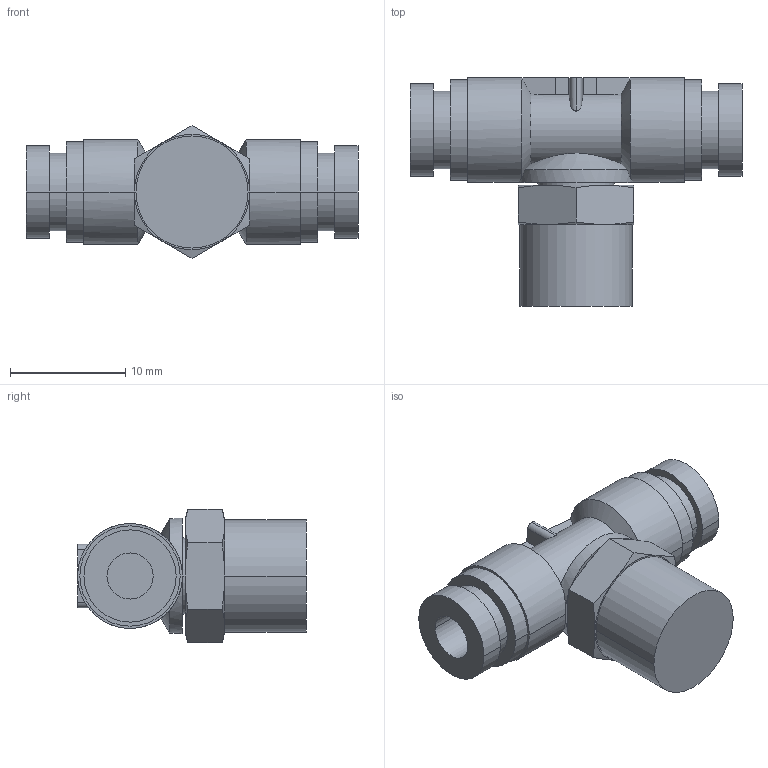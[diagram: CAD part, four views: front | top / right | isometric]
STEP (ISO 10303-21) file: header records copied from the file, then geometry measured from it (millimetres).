
FILE_DESCRIPTION( ( '' ), '1' );
FILE_NAME( 'G:/SMC狟婥/KQ2T04-01AS.stp', '2023-03-07T03:10:55', ( '' ), ( '' ), ' ', ' ', ' ' );
FILE_SCHEMA( ( 'CONFIG_CONTROL_DESIGN' ) );
Length unit declared in the file: millimetre
Products named in the file (1): 1
Bounding box: 28.8 x 19.85 x 11.55 mm (x, y, z)
Volume: 2087.4 mm3; surface area: 1830 mm2
Topology: 1 solids, 1 shells, 87 faces, 202 edges, 128 vertices
Faces by surface type: cylinder 36, plane 33, cone 18
Entity records: 2691 total; most frequent: CARTESIAN_POINT 709, DIRECTION 416, ORIENTED_EDGE 404, EDGE_CURVE 202, AXIS2_PLACEMENT_3D 176, VERTEX_POINT 128, EDGE_LOOP 98, ADVANCED_FACE 87
